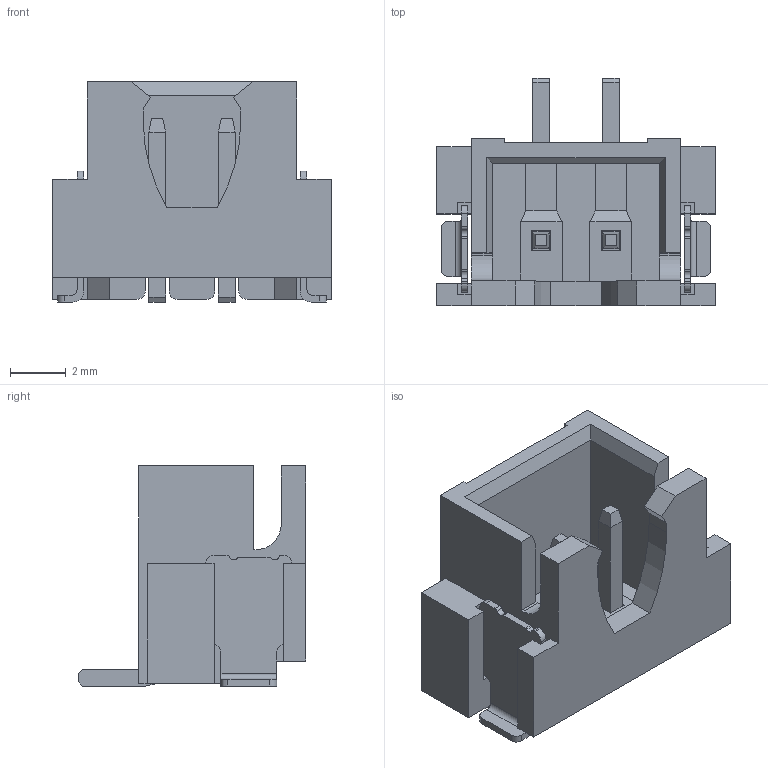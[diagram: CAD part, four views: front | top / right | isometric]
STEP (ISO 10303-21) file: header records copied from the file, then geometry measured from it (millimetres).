
FILE_DESCRIPTION(('STEP AP214'),'1');
FILE_NAME('CONN-SMD_2P-P2.5-AFC25-S02CCA-00.stp','2021-08-18T10:41:56',(' '),(' '),'Spatial InterOp 3D',' ',' ');
FILE_SCHEMA(('AUTOMOTIVE_DESIGN { 1 0 10303 214 1 1 1 1 }'));
Length unit declared in the file: millimetre
Products named in the file (1): 39
Bounding box: 10 x 8.18 x 7.9 mm (x, y, z)
Volume: 180.8 mm3; surface area: 628.5 mm2
Topology: 3 solids, 3 shells, 333 faces, 954 edges, 624 vertices
Faces by surface type: plane 292, cylinder 41
Entity records: 13399 total; most frequent: CARTESIAN_POINT 1913, ORIENTED_EDGE 1908, DIRECTION 1710, EDGE_CURVE 954, LINE 868, VECTOR 868, VERTEX_POINT 624, AXIS2_PLACEMENT_3D 421
